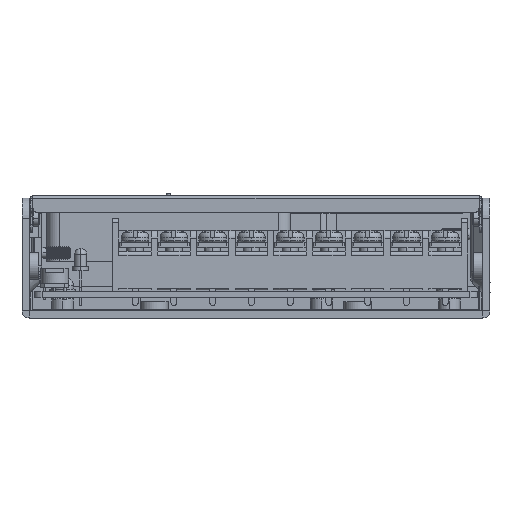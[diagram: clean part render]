
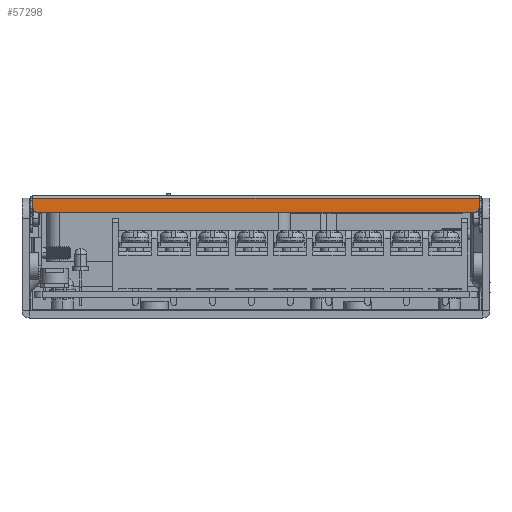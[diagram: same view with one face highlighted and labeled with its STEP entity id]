
A CAD part, left-side view. The second image highlights one B-rep face of the part: STEP entity #57298.
In plain terms, the highlighted planar face has unit normal (-1, 0, 0).
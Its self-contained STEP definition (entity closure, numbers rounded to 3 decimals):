
#25479=DIRECTION('',(0.,1.,0.));
#25480=VECTOR('',#25479,109.6);
#25481=CARTESIAN_POINT('',(18.2,2.7,29.4));
#25482=LINE('',#25481,#25480);
#25522=DIRECTION('',(0.,0.,-1.));
#25523=VECTOR('',#25522,2.4);
#25524=CARTESIAN_POINT('',(18.2,112.3,29.4));
#25525=LINE('',#25524,#25523);
#25543=DIRECTION('',(0.,-1.,0.));
#25544=VECTOR('',#25543,107.6);
#25545=CARTESIAN_POINT('',(18.2,111.3,26.));
#25546=LINE('',#25545,#25544);
#25557=CARTESIAN_POINT('',(18.2,111.3,27.));
#25558=DIRECTION('',(1.,0.,0.));
#25559=DIRECTION('',(0.,0.,-1.));
#25560=AXIS2_PLACEMENT_3D('',#25557,#25558,#25559);
#25565=CARTESIAN_POINT('',(18.2,3.7,27.));
#25566=DIRECTION('',(1.,0.,0.));
#25567=DIRECTION('',(0.,-1.,0.));
#25568=AXIS2_PLACEMENT_3D('',#25565,#25566,#25567);
#25573=DIRECTION('',(0.,0.,1.));
#25574=VECTOR('',#25573,2.4);
#25575=CARTESIAN_POINT('',(18.2,2.7,27.));
#25576=LINE('',#25575,#25574);
#51006=CARTESIAN_POINT('',(18.2,112.3,29.4));
#51007=VERTEX_POINT('',#51006);
#51008=CARTESIAN_POINT('',(18.2,2.7,29.4));
#51009=VERTEX_POINT('',#51008);
#51011=CARTESIAN_POINT('',(18.2,112.3,27.));
#51013=VERTEX_POINT('',#51011);
#51018=CARTESIAN_POINT('',(18.2,111.3,26.));
#51020=VERTEX_POINT('',#51018);
#51022=CARTESIAN_POINT('',(18.2,3.7,26.));
#51023=VERTEX_POINT('',#51022);
#51026=CARTESIAN_POINT('',(18.2,2.7,27.));
#51027=VERTEX_POINT('',#51026);
#57283=CARTESIAN_POINT('',(18.2,113.,30.));
#57284=DIRECTION('',(-1.,0.,0.));
#57285=DIRECTION('',(0.,1.,0.));
#57286=AXIS2_PLACEMENT_3D('',#57283,#57284,#57285);
#57287=PLANE('',#57286);
#57288=ORIENTED_EDGE('',*,*,#57263,.T.);
#57289=ORIENTED_EDGE('',*,*,#57248,.F.);
#57290=ORIENTED_EDGE('',*,*,#57228,.F.);
#57292=ORIENTED_EDGE('',*,*,#57291,.F.);
#57294=ORIENTED_EDGE('',*,*,#57293,.T.);
#57295=ORIENTED_EDGE('',*,*,#57274,.F.);
#57296=EDGE_LOOP('',(#57288,#57289,#57290,#57292,#57294,#57295));
#57297=FACE_OUTER_BOUND('',#57296,.F.);
#25561=CIRCLE('',#25560,1.);
#25569=CIRCLE('',#25568,1.);
#57228=EDGE_CURVE('',#51009,#51007,#25482,.T.);
#57248=EDGE_CURVE('',#51007,#51013,#25525,.T.);
#57263=EDGE_CURVE('',#51020,#51013,#25561,.T.);
#57274=EDGE_CURVE('',#51020,#51023,#25546,.T.);
#57291=EDGE_CURVE('',#51027,#51009,#25576,.T.);
#57293=EDGE_CURVE('',#51027,#51023,#25569,.T.);
#57298=ADVANCED_FACE('',(#57297),#57287,.T.);
